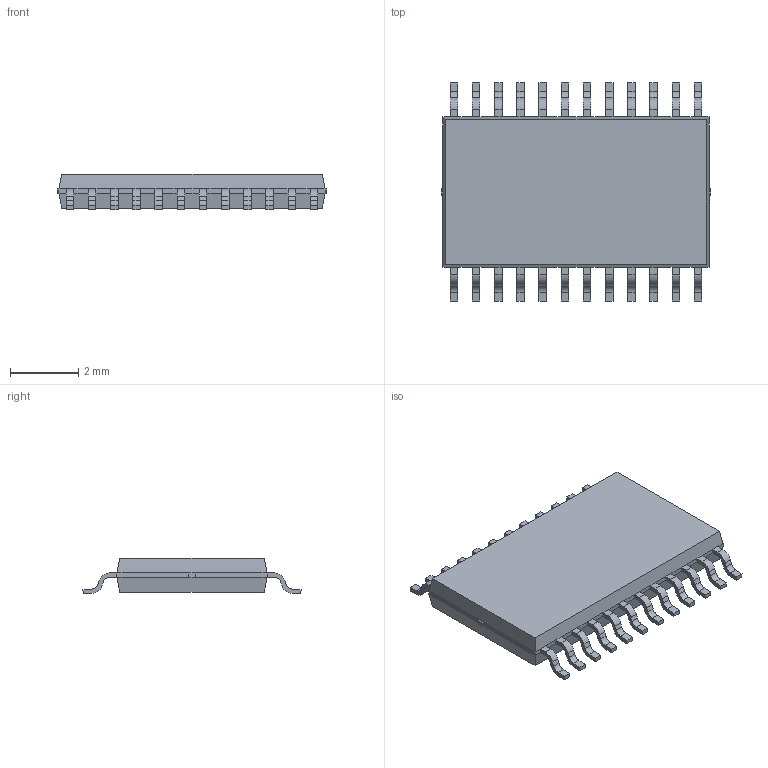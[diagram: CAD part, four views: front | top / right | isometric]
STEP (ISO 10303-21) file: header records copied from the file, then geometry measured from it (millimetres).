
FILE_DESCRIPTION (( 'STEP AP214' ), '1' );
FILE_NAME ('LP24.STEP', '2018-09-19T17:29:40', ( '' ), ( '' ), 'SwSTEP 2.0', 'SolidWorks 2017', '' );
FILE_SCHEMA (( 'AUTOMOTIVE_DESIGN' ));
Length unit declared in the file: millimetre
Products named in the file (1): LP24
Bounding box: 7.9 x 6.4 x 1.05 mm (x, y, z)
Volume: 34.3 mm3; surface area: 110 mm2
Topology: 1 solids, 1 shells, 363 faces, 988 edges, 628 vertices
Faces by surface type: plane 267, cylinder 96
Entity records: 11760 total; most frequent: CARTESIAN_POINT 1980, ORIENTED_EDGE 1976, DIRECTION 1916, EDGE_CURVE 988, LINE 788, VECTOR 788, VERTEX_POINT 628, AXIS2_PLACEMENT_3D 564
